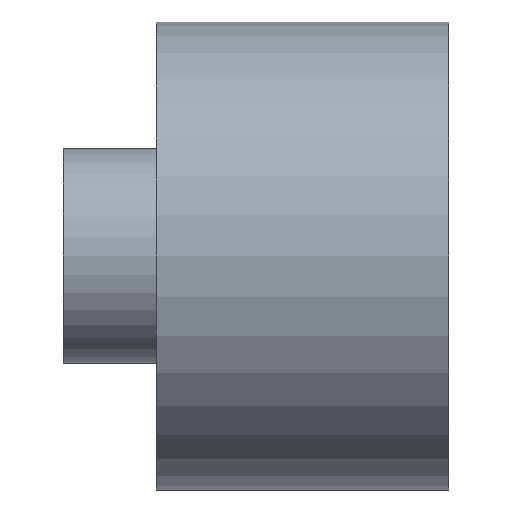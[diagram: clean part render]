
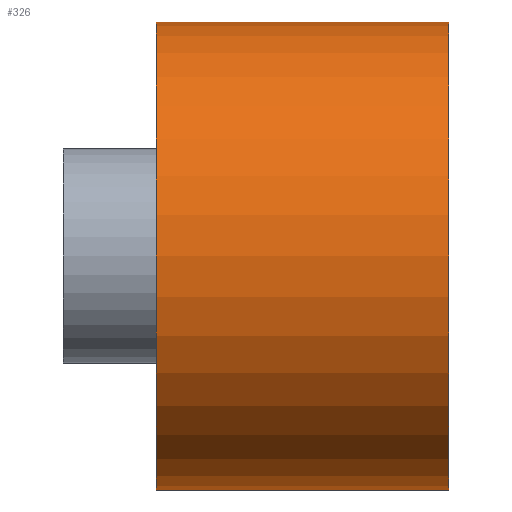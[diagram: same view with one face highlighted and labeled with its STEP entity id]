
A CAD part, front view. The second image highlights one B-rep face of the part: STEP entity #326.
In plain terms, the highlighted cylindrical face has radius 24 mm (diameter 48 mm), a partial arc.
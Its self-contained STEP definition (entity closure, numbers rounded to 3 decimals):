
#6=DIRECTION('',(-1.,0.,0.));
#7=VECTOR('',#6,30.);
#8=CARTESIAN_POINT('',(0.,0.,-24.));
#9=LINE('',#8,#7);
#10=DIRECTION('',(-1.,0.,0.));
#11=VECTOR('',#10,30.);
#12=CARTESIAN_POINT('',(0.,0.,24.));
#13=LINE('',#12,#11);
#14=CARTESIAN_POINT('',(0.,0.,0.));
#15=DIRECTION('',(-1.,0.,0.));
#16=DIRECTION('',(0.,0.,-1.));
#17=AXIS2_PLACEMENT_3D('',#14,#15,#16);
#19=CARTESIAN_POINT('',(-30.,0.,0.));
#20=DIRECTION('',(-1.,0.,0.));
#21=DIRECTION('',(0.,0.,-1.));
#22=AXIS2_PLACEMENT_3D('',#19,#20,#21);
#233=CARTESIAN_POINT('',(0.,0.,-24.));
#234=CARTESIAN_POINT('',(-30.,0.,-24.));
#235=VERTEX_POINT('',#233);
#236=VERTEX_POINT('',#234);
#251=CARTESIAN_POINT('',(0.,0.,24.));
#252=CARTESIAN_POINT('',(-30.,0.,24.));
#253=VERTEX_POINT('',#251);
#254=VERTEX_POINT('',#252);
#313=CARTESIAN_POINT('',(-41.475,0.,0.));
#314=DIRECTION('',(1.,0.,0.));
#315=DIRECTION('',(0.,0.,1.));
#316=AXIS2_PLACEMENT_3D('',#313,#314,#315);
#317=CYLINDRICAL_SURFACE('',#316,24.);
#318=ORIENTED_EDGE('',*,*,#302,.T.);
#320=ORIENTED_EDGE('',*,*,#319,.T.);
#321=ORIENTED_EDGE('',*,*,#306,.F.);
#323=ORIENTED_EDGE('',*,*,#322,.F.);
#324=EDGE_LOOP('',(#318,#320,#321,#323));
#325=FACE_OUTER_BOUND('',#324,.F.);
#326=ADVANCED_FACE('',(#325),#317,.T.);
#18=CIRCLE('',#17,24.);
#23=CIRCLE('',#22,24.);
#302=EDGE_CURVE('',#235,#236,#9,.T.);
#306=EDGE_CURVE('',#253,#254,#13,.T.);
#319=EDGE_CURVE('',#236,#254,#23,.T.);
#322=EDGE_CURVE('',#235,#253,#18,.T.);
